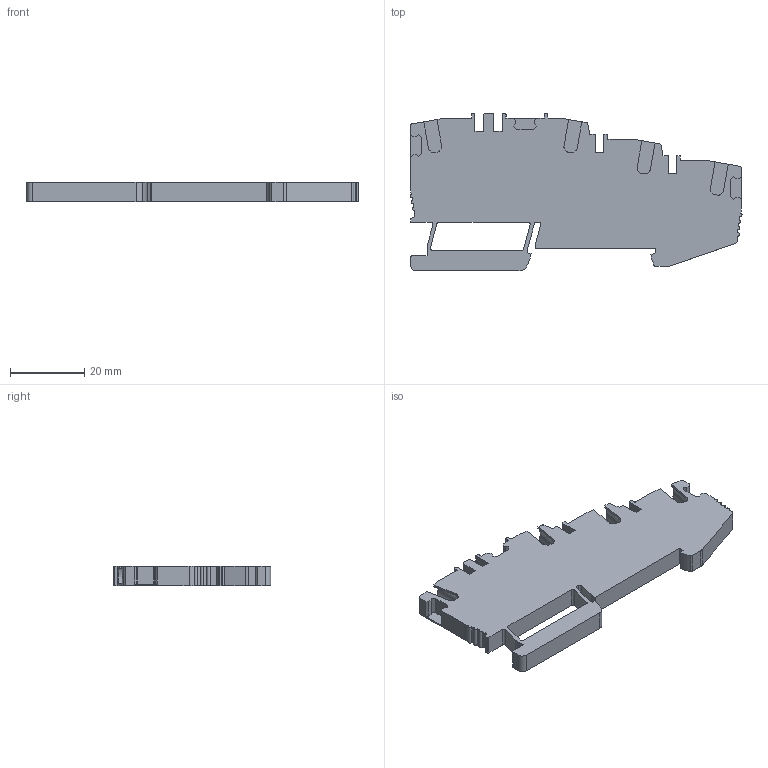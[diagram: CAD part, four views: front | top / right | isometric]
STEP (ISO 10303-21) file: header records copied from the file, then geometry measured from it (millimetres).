
FILE_DESCRIPTION(('Creo Elements/Direct Modeling STEP Export'),'2;1');
FILE_NAME('EFT.2_S.stp','2019-07-26T13:51:35',(''),(''),'Creo Elements/Direct Modeling STEP processor for AP214 (Solid Model)','Creo Elements/Direct Modeling 20.1 10-Mar-2018 (C) Parametric Technology GmbH','');
FILE_SCHEMA(('AUTOMOTIVE_DESIGN { 1 0 10303 214 1 1 1 1 }'));
Length unit declared in the file: millimetre
Products named in the file (1): EFT.2_S
Bounding box: 89.36 x 42.4 x 5.2 mm (x, y, z)
Volume: 12986.2 mm3; surface area: 8169.8 mm2
Topology: 1 solids, 1 shells, 289 faces, 833 edges, 556 vertices
Faces by surface type: plane 201, cylinder 88
Entity records: 9655 total; most frequent: ORIENTED_EDGE 1666, CARTESIAN_POINT 1661, DIRECTION 1565, EDGE_CURVE 833, VECTOR 645, LINE 645, VERTEX_POINT 556, AXIS2_PLACEMENT_3D 460
